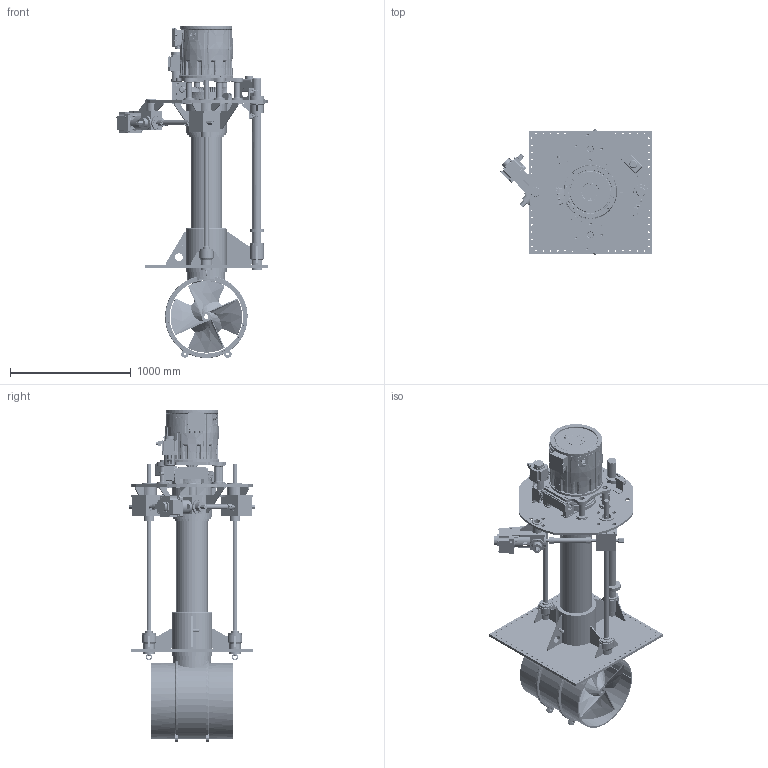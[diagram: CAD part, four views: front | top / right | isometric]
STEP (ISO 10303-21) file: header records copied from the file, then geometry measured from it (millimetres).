
FILE_DESCRIPTION(/* description */ (''),/* implementation_level */ '2;1');
FILE_NAME(/* name */ 'Q:\THRUSTERS\THRUSTER SALES & SUPPORT DOCS\THRUSTER Sales\E-V-R\E-0600-V-R\E-0600-V-R-RETRACTED.stp',/* time_stamp */ '2021-02-03T08:53:02+00:00',/* author */ ('Barney.Webborn'),/* organization */ (''),/* preprocessor_version */ 'ST-DEVELOPER v17.2',/* originating_system */ 'Autodesk Inventor 2019',/* authorisation */ '');
FILE_SCHEMA (('AUTOMOTIVE_DESIGN { 1 0 10303 214 3 1 1 }'));
Products named in the file (1): E-0600-V-R_Shrinkwrap_1
Bounding box: 1257.91 x 1052.43 x 2755.3 mm (x, y, z)
Volume: 180504299.7 mm3; surface area: 18197705.5 mm2
Topology: 7 solids, 7 shells, 9903 faces, 27020 edges, 17376 vertices
Faces by surface type: plane 4335, cylinder 2550, bspline 1375, cone 1004, torus 527, sphere 112
Full cylindrical faces by diameter (mm): 3 x6, 4.95 x8, 5.5 x12, 7 x23, 7.2 x2, 8 x9, 8.376 x1, 8.5 x19, 9 x4, 9.43 x7, 9.5 x1, 9.525 x1, 10 x12, 10.5 x2, 10.56 x1, 12 x21, 12.4 x12, 12.5 x24, 13 x103, 13.157 x1, 13.44 x1, 13.5 x4, 13.9 x3, 14 x5, 14.287 x1, 14.3 x1, 14.376 x2, 14.5 x1, 15 x15, 15.24 x12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
Entity records: 412222 total; most frequent: CARTESIAN_POINT 157736, ORIENTED_EDGE 53638, DIRECTION 48416, EDGE_CURVE 26819, AXIS2_PLACEMENT_3D 18075, VERTEX_POINT 17376, LINE 12266, VECTOR 12266
